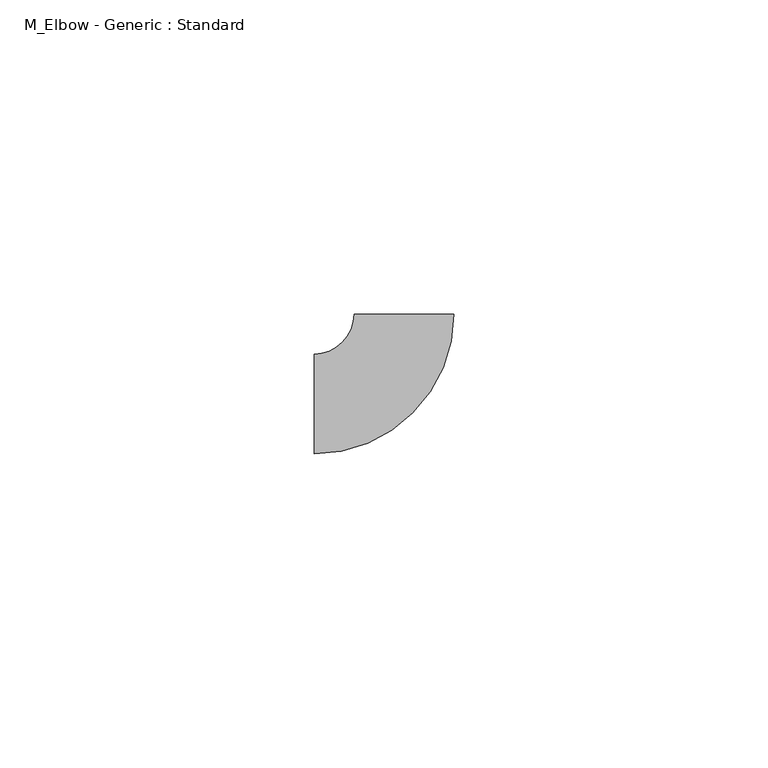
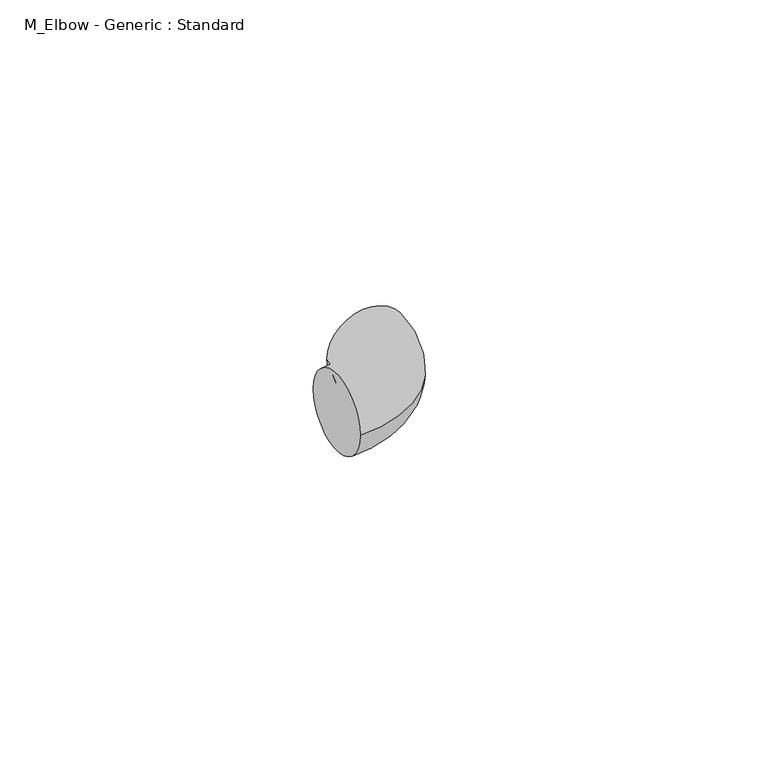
"""IFC4 building model written with IfcOpenShell, lengths in millimetres: pipe fitting geometry, M_Elbow - Generic : Standard."""

from ifc_helpers import new_model, si_unit, point, frame, origin, place, context, project, spatial, circle_curve, ellipse_curve, trimmed, source, transform, mapped, element, save
from ifc_brep_helpers import plane_surface, revolved_surface, advanced_brep


def m_elbow_generic_standard_6b1a80c6(model_context):
    return source(origin(), model_context, "Body", "AdvancedBrep", [
        advanced_brep(
        [(-14.2871847, -7.9375, 0.0), (-14.2871847, 7.9375, 0.0), (7.9378153, 14.2870095, 0.0), (-7.9371847, 14.2873598, 0.0)],
        [
            (0, 1, circle_curve(frame((-14.2871847, 0.0, 0.0), z_axis=(-1.0, 0.0, 0.0), x_axis=(0.0, 1.0, 0.0)), 7.9375)),
            (1, 0, circle_curve(frame((-14.2871847, 0.0, 0.0), z_axis=(-1.0, 0.0, 0.0), x_axis=(0.0, 1.0, 0.0)), 7.9375)),
            (2, 3, circle_curve(frame((0.0003153, 14.2871847, 0.0), z_axis=(2.2071440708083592e-05, 0.9999999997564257, 0.0), x_axis=(-0.9999999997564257, 2.2071440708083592e-05, 0.0)), 7.9375)),
            (3, 2, circle_curve(frame((0.0003153, 14.2871847, 0.0), z_axis=(2.2071440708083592e-05, 0.9999999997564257, 0.0), x_axis=(-0.9999999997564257, 2.2071440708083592e-05, 0.0)), 7.9375)),
            (3, 1, circle_curve(frame((-14.2871847, 14.2875, 0.0), z_axis=(0.0, 0.0, -1.0), x_axis=(0.0, -1.0, 0.0)), 6.35)),
            (0, 2, circle_curve(frame((-14.2871847, 14.2875, 0.0), z_axis=(0.0, 0.0, 1.0), x_axis=(0.0, -1.0, 0.0)), 22.225)),
        ],
        [
            plane_surface(frame((-14.2871847, 0.0, 0.0), z_axis=(-1.0, 0.0, 0.0), x_axis=(0.0, 0.0, 1.0))),
            plane_surface(frame((0.0003153, 14.2871847, 0.0), z_axis=(2.2071440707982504e-05, 0.9999999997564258, 0.0), x_axis=(0.0, 0.0, 1.0))),
            revolved_surface(trimmed(ellipse_curve(frame((-14.2871847, 0.0, 0.0), z_axis=(-1.0, 0.0, 0.0), x_axis=(0.0, 1.0, 0.0)), 7.9375, 7.9375), [point((-14.2871847, -7.9375, 0.0))], [point((-14.2871847, 7.9375, 0.0))], True, "CARTESIAN"), (-14.2871847, 14.2875, 0.0), (0.0, 0.0, 1.0)),
            revolved_surface(trimmed(ellipse_curve(frame((-14.2871847, 0.0, 0.0), z_axis=(-1.0, 0.0, 0.0), x_axis=(0.0, 1.0, 0.0)), 7.9375, 7.9375), [point((-14.2871847, 7.9375, 0.0))], [point((-14.2871847, -7.9375, 0.0))], True, "CARTESIAN"), (-14.2871847, 14.2875, 0.0), (0.0, 0.0, 1.0)),
        ],
        [
            (0, [[1, 2]]),
            (1, [[3, 4]]),
            (2, [[5, -1, 6, -4]]),
            (3, [[-6, -2, -5, -3]]),
        ],
    ),
    ])


if __name__ == "__main__":
    model = new_model("IFC4")
    model_context = context("Model", 3, world=origin())
    ifc_project = project(units=[si_unit("LENGTHUNIT", "METRE", prefix="MILLI")], contexts=[model_context])
    site = spatial("IfcSite", under=ifc_project)
    building = spatial("IfcBuilding", under=site)
    placement = place(None, origin())
    m_elbow_generic_standard_shape = m_elbow_generic_standard_6b1a80c6(model_context)
    element("IfcPipeFitting", 1, ObjectType="M_Elbow - Generic : Standard", at=placement, inside=building, context=model_context, shape_type="MappedRepresentation", body=[
        mapped(m_elbow_generic_standard_shape, transform((0.0, 0.0, 0.0), x_axis=(1.0, 0.0, 0.0), y_axis=(0.0, 1.0, 0.0), z_axis=(0.0, 0.0, 1.0))),
    ])
    save(model, "model.ifc")
